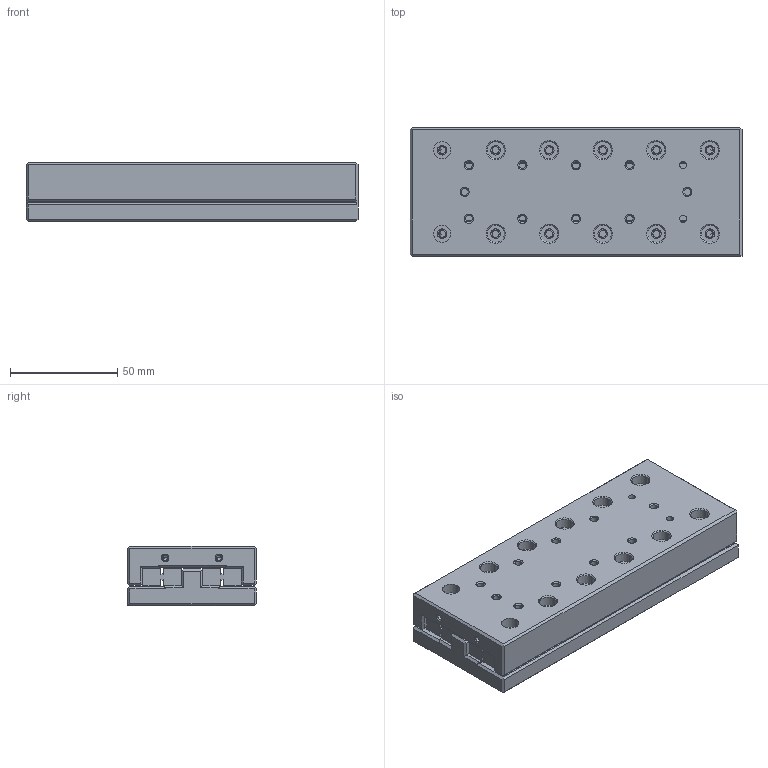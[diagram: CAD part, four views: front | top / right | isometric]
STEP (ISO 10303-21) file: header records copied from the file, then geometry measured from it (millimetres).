
FILE_DESCRIPTION((''),'2;1');
FILE_NAME('CUR3155_ASM','2017-01-24T',('Administrator'),(''),'PRO/ENGINEER BY PARAMETRIC TECHNOLOGY CORPORATION, 2013150','PRO/ENGINEER BY PARAMETRIC TECHNOLOGY CORPORATION, 2013150','');
FILE_SCHEMA(('CONFIG_CONTROL_DESIGN'));
Length unit declared in the file: millimetre
Products named in the file (4): CRU3155-01; CRU3155-GV3155; CRU3155-02; CUR3155_ASM
Assembly tree (4 placements, depth 2):
  CUR3155_ASM
    CRU3155-01
    CRU3155-GV3155  x2
    CRU3155-02
Bounding box: 155 x 60 x 28 mm (x, y, z)
Volume: 230362 mm3; surface area: 82091.6 mm2
Topology: 4 solids, 4 shells, 653 faces, 1532 edges, 935 vertices
Faces by surface type: cylinder 264, cone 210, plane 179
Entity records: 15690 total; most frequent: DIRECTION 2942, CARTESIAN_POINT 2572, ORIENTED_EDGE 2512, EDGE_CURVE 1256, AXIS2_PLACEMENT_3D 1141, VERTEX_POINT 771, EDGE_LOOP 703, VECTOR 660
